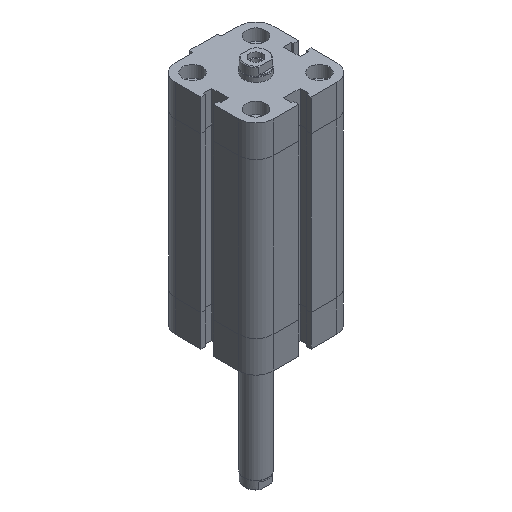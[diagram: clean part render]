
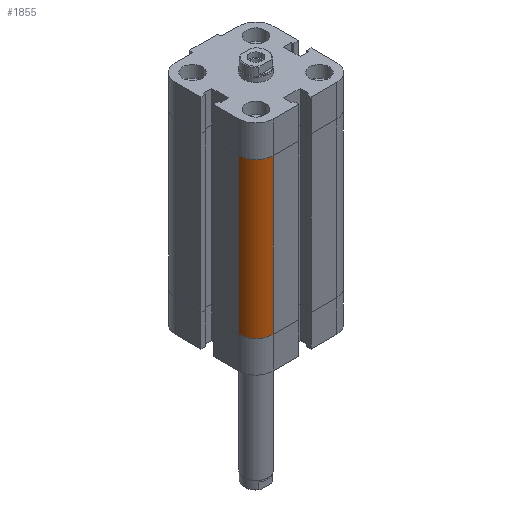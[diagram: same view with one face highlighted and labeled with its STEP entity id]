
A CAD part, isometric view. The second image highlights one B-rep face of the part: STEP entity #1855.
In plain terms, the highlighted cylindrical face has radius 7 mm (diameter 14 mm), a partial arc.
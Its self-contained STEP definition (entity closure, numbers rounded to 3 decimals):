
#1766=CARTESIAN_POINT('',(-20.,-13.,13.));
#1767=VERTEX_POINT('',#1766);
#1774=CARTESIAN_POINT('',(-20.,-13.,76.5));
#1775=VERTEX_POINT('',#1774);
#1776=CARTESIAN_POINT('',(-20.,-13.,13.));
#1777=DIRECTION('',(0.0,0.0,1.0));
#1778=VECTOR('',#1777,63.5);
#1779=LINE('',#1776,#1778);
#1780=EDGE_CURVE('',#1767,#1775,#1779,.T.);
#1823=CARTESIAN_POINT('',(-13.,-13.,0.0));
#1824=DIRECTION('',(0.0,0.0,1.0));
#1825=DIRECTION('',(1.0,0.0,0.0));
#1826=AXIS2_PLACEMENT_3D('',#1823,#1824,#1825);
#1827=CYLINDRICAL_SURFACE('',#1826,7.);
#1828=CARTESIAN_POINT('',(-13.,-20.0,13.));
#1829=VERTEX_POINT('',#1828);
#1830=CARTESIAN_POINT('',(-13.,-13.,13.0));
#1831=DIRECTION('',(0.0,0.0,1.0));
#1832=DIRECTION('',(1.0,0.0,0.0));
#1833=AXIS2_PLACEMENT_3D('',#1830,#1831,#1832);
#1834=CIRCLE('',#1833,7.);
#1835=EDGE_CURVE('',#1767,#1829,#1834,.T.);
#1836=ORIENTED_EDGE('',*,*,#1835,.T.);
#1837=CARTESIAN_POINT('',(-13.,-20.0,76.5));
#1838=VERTEX_POINT('',#1837);
#1839=CARTESIAN_POINT('',(-13.,-20.0,13.));
#1840=DIRECTION('',(0.0,0.0,1.0));
#1841=VECTOR('',#1840,63.5);
#1842=LINE('',#1839,#1841);
#1843=EDGE_CURVE('',#1829,#1838,#1842,.T.);
#1844=ORIENTED_EDGE('',*,*,#1843,.T.);
#1845=CARTESIAN_POINT('',(-13.,-13.,76.5));
#1846=DIRECTION('',(0.0,0.0,1.0));
#1847=DIRECTION('',(1.0,0.0,0.0));
#1848=AXIS2_PLACEMENT_3D('',#1845,#1846,#1847);
#1849=CIRCLE('',#1848,7.);
#1850=EDGE_CURVE('',#1775,#1838,#1849,.T.);
#1851=ORIENTED_EDGE('',*,*,#1850,.F.);
#1852=ORIENTED_EDGE('',*,*,#1780,.F.);
#1853=EDGE_LOOP('',(#1836,#1844,#1851,#1852));
#1854=FACE_OUTER_BOUND('',#1853,.T.);
#1855=ADVANCED_FACE('',(#1854),#1827,.T.);
